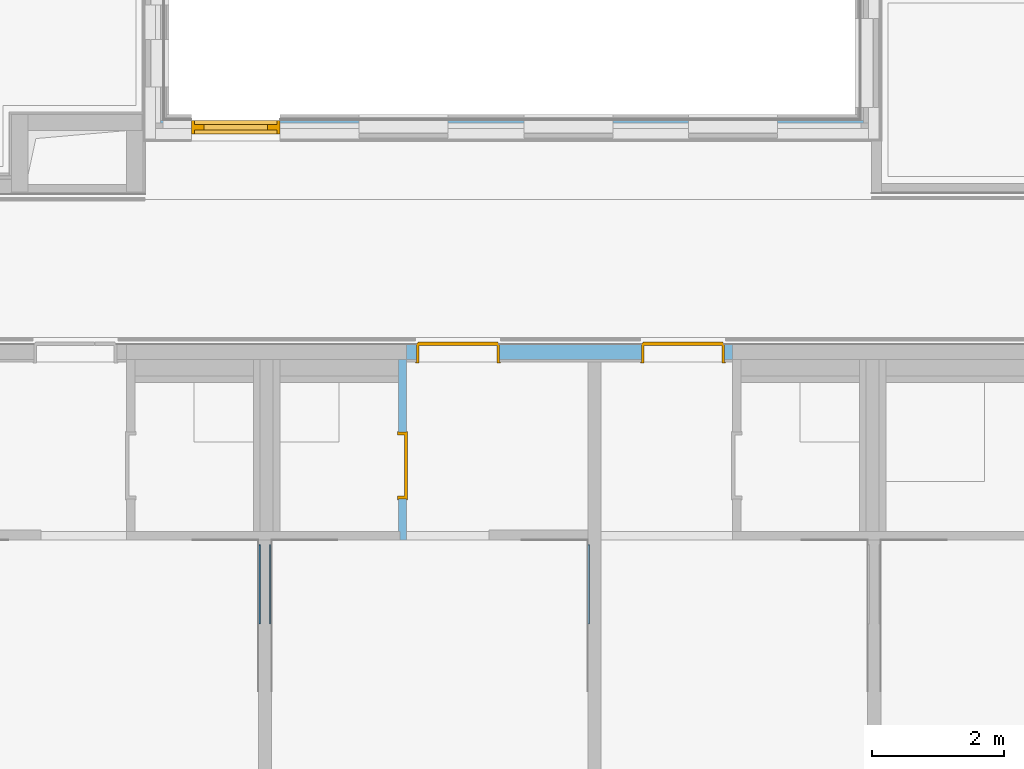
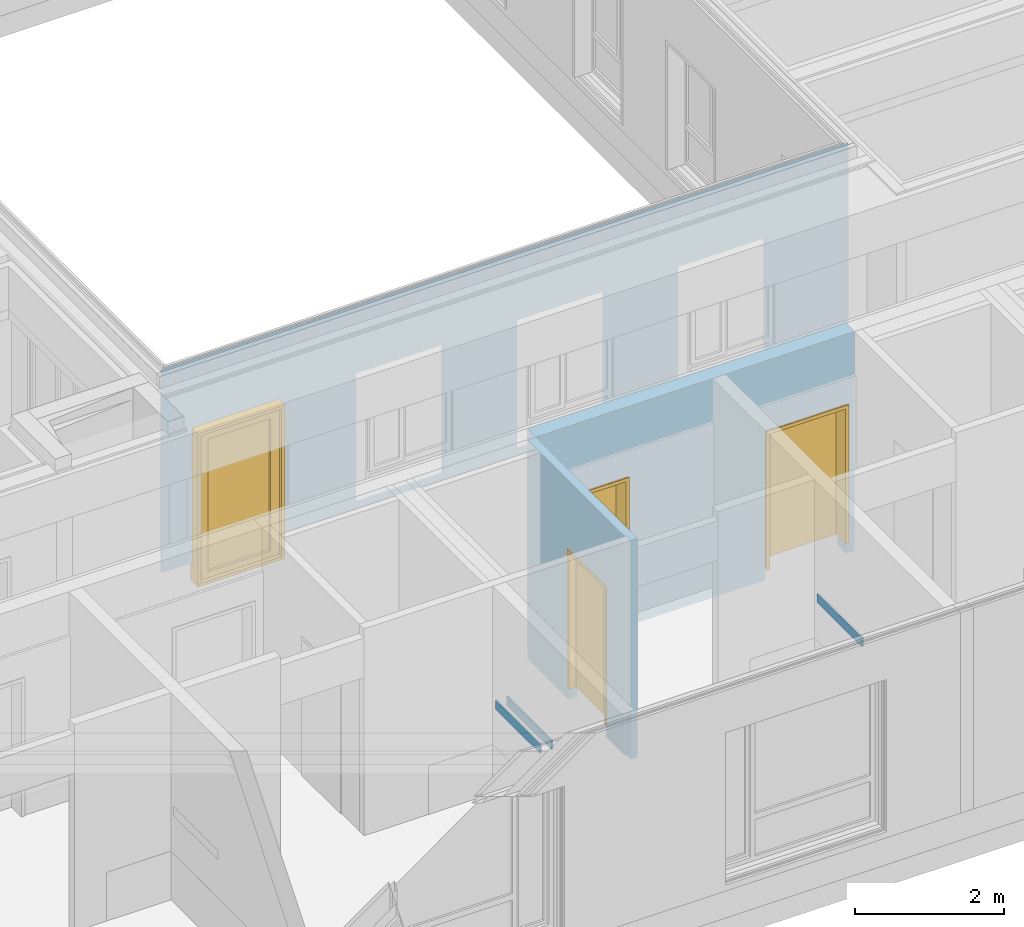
# One storey, part 125 of 207: 4 doors, 3 walls, 7 openings, plus 3 elements that do not belong to this part.
"""IFC4 building model written with IfcOpenShell, lengths in metres."""

from ifc_helpers import new_model, entity, si_unit, converted_unit, derived_unit, frame, frame_2d, origin, origin_with_axes, place, context, subcontext, project, spatial, polyline, rectangle, outline, extrude, closed_shell, open_shell, faceted_brep, surface_model, source, transform, mapped, material, type_object, element, fill, save


model = new_model("IFC4")

# Units and contexts
model_context = context("Model", 3, precision=1e-05, world=origin())
body_context = subcontext(model_context, "Body", "Model", "MODEL_VIEW")
ifc_project = project(units=[si_unit("LENGTHUNIT", "METRE"), si_unit("AREAUNIT", "SQUARE_METRE"), si_unit("VOLUMEUNIT", "CUBIC_METRE"), si_unit("MASSUNIT", "GRAM", prefix="KILO"), converted_unit("PLANEANGLEUNIT", "DEGREE", entity("IfcPlaneAngleMeasure", 0.0174532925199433), si_unit("PLANEANGLEUNIT", "RADIAN"), dimensions=[0, 0, 0, 0, 0, 0, 0]), derived_unit("THERMALTRANSMITTANCEUNIT", [(si_unit("POWERUNIT", "WATT"), 1), (si_unit("THERMODYNAMICTEMPERATUREUNIT", "KELVIN"), -1), (si_unit("LENGTHUNIT", "METRE"), -2)]), derived_unit("VOLUMETRICFLOWRATEUNIT", [(si_unit("LENGTHUNIT", "METRE"), 3), (converted_unit("TIMEUNIT", "hour", entity("IfcTimeMeasure", 3600.0), si_unit("TIMEUNIT", "SECOND"), dimensions=[0, 0, 1, 0, 0, 0, 0]), -1), (si_unit("LENGTHUNIT", "METRE"), -1)])], contexts=[model_context])

# Site, building, storey
site_placement = place(None, origin())
site = spatial("IfcSite", under=ifc_project, at=site_placement, Name="Psychiatrie Neubau Wunstorf", CompositionType="ELEMENT")
building_placement = place(site_placement, origin())
building = spatial("IfcBuilding", under=site, at=building_placement, Name="Neubau H2 Stationsgebäude", CompositionType="ELEMENT")
storey_placement = place(building_placement, frame((0.0, 0.0, -0.2)))
storey = spatial("IfcBuildingStorey", under=building, at=storey_placement, Name="H2 Ebene 0", CompositionType="ELEMENT", Elevation=-0.2)

# Wall, openings, door
ifc_material_1 = material(Name="WA-LB")
wall_1_placement = place(storey_placement, frame((79.415, 8.69000000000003, 0.5), z_axis=(0.0, 0.0, 1.0), x_axis=(1.0, -1.70476982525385e-16, 0.0)))
wall_1 = element("IfcWall", 1, at=wall_1_placement, inside=storey, material=ifc_material_1, context=body_context, shape_type="SweptSolid", body=[
    extrude(rectangle(XDim=10.67, YDim=0.036, at=frame_2d((5.335, 0.018), x_axis=(1.0, 0.0))), origin_with_axes(), (0.0, 0.0, 1.0), 3.3),
])
opening_1_placement = place(wall_1_placement, frame((9.3647, 0.0359999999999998, 0.1), z_axis=(0.0, -1.0, 0.0), x_axis=(0.0, 0.0, 1.0)))
element("IfcOpeningElement", 2, at=opening_1_placement, cuts=wall_1, Name="Fensteröffnung", ObjectType="Opening", context=body_context, shape_type="SweptSolid", body=[
    extrude(outline(polyline([(2.12, 1.35), (2.12, 0.0), (0.0, 0.0), (0.0, 1.35), (2.12, 1.35)])), origin_with_axes(), (0.0, 0.0, 1.0), 0.036),
])
opening_2_placement = place(wall_1_placement, frame((6.8647, 0.0359999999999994, 0.1), z_axis=(0.0, -1.0, 0.0), x_axis=(0.0, 0.0, 1.0)))
element("IfcOpeningElement", 3, at=opening_2_placement, cuts=wall_1, Name="Fensteröffnung", ObjectType="Opening", context=body_context, shape_type="SweptSolid", body=[
    extrude(outline(polyline([(2.12, 1.35), (2.12, 0.0), (0.0, 0.0), (0.0, 1.35), (2.12, 1.35)])), origin_with_axes(), (0.0, 0.0, 1.0), 0.036),
])
opening_3_placement = place(wall_1_placement, frame((4.3647, 0.0360000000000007, 0.1), z_axis=(0.0, -1.0, 0.0), x_axis=(0.0, 0.0, 1.0)))
element("IfcOpeningElement", 4, at=opening_3_placement, cuts=wall_1, Name="Fensteröffnung", ObjectType="Opening", context=body_context, shape_type="SweptSolid", body=[
    extrude(outline(polyline([(2.12, 1.35), (2.12, 0.0), (0.0, 0.0), (0.0, 1.35), (2.12, 1.35)])), origin_with_axes(), (0.0, 0.0, 1.0), 0.036),
])
opening_4_placement = place(wall_1_placement, frame((1.81600000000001, 0.0360000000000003, -0.5), z_axis=(0.0, -1.0, 0.0), x_axis=(0.0, 0.0, 1.0)))
opening_4 = element("IfcOpeningElement", 5, at=opening_4_placement, cuts=wall_1, Name="Türöffnung", ObjectType="Opening", context=body_context, shape_type="SweptSolid", body=[
    extrude(outline(polyline([(2.72, 1.35), (2.72, 0.0), (0.0, 0.0), (0.0, 1.35), (2.72, 1.35)])), origin_with_axes(), (0.0, 0.0, 1.0), 0.036),
])
ifc_material_2 = material(Name="TA-1F-AG-D-O")
door_type_1 = type_object("IfcDoorType", Name="SMT", OperationType="SINGLE_SWING_LEFT", ParameterTakesPrecedence=False, PredefinedType="DOOR")
shared_shape_1 = source(origin_with_axes(), body_context, "Body", "SurfaceModel", [
    surface_model("IfcShellBasedSurfaceModel", [(0.0, 0.0, 2.72), (0.05, 0.0, 2.72), (0.05, 0.0, 0.2), (0.0, 0.0, 0.2), (0.0, 0.2, 0.2), (0.05, 0.2, 0.2), (0.05, 0.2, 2.72), (0.0, 0.2, 2.72)], [closed_shell([[[0, 1, 2, 3]], [[4, 5, 6, 7]], [[3, 4, 7, 0]], [[2, 5, 4, 3]], [[1, 6, 5, 2]], [[0, 7, 6, 1]]], orient=[[False], [False], [False], [False], [False], [False]])]),
    surface_model("IfcShellBasedSurfaceModel", [(1.3, 0.0, 2.72), (1.35, 0.0, 2.72), (1.35, 0.0, 0.2), (1.3, 0.0, 0.2), (1.3, 0.2, 0.2), (1.35, 0.2, 0.2), (1.35, 0.2, 2.72), (1.3, 0.2, 2.72)], [closed_shell([[[0, 1, 2, 3]], [[4, 5, 6, 7]], [[3, 4, 7, 0]], [[2, 5, 4, 3]], [[1, 6, 5, 2]], [[0, 7, 6, 1]]], orient=[[False], [False], [False], [False], [False], [False]])]),
    surface_model("IfcShellBasedSurfaceModel", [(0.05, 0.0, 0.25), (1.3, 0.0, 0.25), (1.3, 0.0, 0.2), (0.05, 0.0, 0.2), (0.05, 0.2, 0.2), (1.3, 0.2, 0.2), (1.3, 0.2, 0.25), (0.05, 0.2, 0.25)], [closed_shell([[[0, 1, 2, 3]], [[4, 5, 6, 7]], [[3, 4, 7, 0]], [[2, 5, 4, 3]], [[1, 6, 5, 2]], [[0, 7, 6, 1]]], orient=[[False], [False], [False], [False], [False], [False]])]),
    surface_model("IfcShellBasedSurfaceModel", [(0.05, 0.0, 2.72), (1.3, 0.0, 2.72), (1.3, 0.0, 2.67), (0.05, 0.0, 2.67), (0.05, 0.2, 2.67), (1.3, 0.2, 2.67), (1.3, 0.2, 2.72), (0.05, 0.2, 2.72)], [closed_shell([[[0, 1, 2, 3]], [[4, 5, 6, 7]], [[3, 4, 7, 0]], [[2, 5, 4, 3]], [[1, 6, 5, 2]], [[0, 7, 6, 1]]], orient=[[False], [False], [False], [False], [False], [False]])]),
    surface_model("IfcShellBasedSurfaceModel", [(0.05, 0.06, 2.67), (0.13, 0.06, 2.67), (0.13, 0.06, 0.25), (0.05, 0.06, 0.25), (0.05, 0.14, 0.25), (0.13, 0.14, 0.25), (0.13, 0.14, 2.67), (0.05, 0.14, 2.67)], [closed_shell([[[0, 1, 2, 3]], [[4, 5, 6, 7]], [[3, 4, 7, 0]], [[2, 5, 4, 3]], [[1, 6, 5, 2]], [[0, 7, 6, 1]]], orient=[[False], [False], [False], [False], [False], [False]])]),
    surface_model("IfcShellBasedSurfaceModel", [(1.22, 0.06, 2.67), (1.3, 0.06, 2.67), (1.3, 0.06, 0.25), (1.22, 0.06, 0.25), (1.22, 0.14, 0.25), (1.3, 0.14, 0.25), (1.3, 0.14, 2.67), (1.22, 0.14, 2.67)], [closed_shell([[[0, 1, 2, 3]], [[4, 5, 6, 7]], [[3, 4, 7, 0]], [[2, 5, 4, 3]], [[1, 6, 5, 2]], [[0, 7, 6, 1]]], orient=[[False], [False], [False], [False], [False], [False]])]),
    surface_model("IfcShellBasedSurfaceModel", [(0.13, 0.06, 2.67), (1.22, 0.06, 2.67), (1.22, 0.06, 2.59), (0.13, 0.06, 2.59), (0.13, 0.14, 2.59), (1.22, 0.14, 2.59), (1.22, 0.14, 2.67), (0.13, 0.14, 2.67)], [closed_shell([[[0, 1, 2, 3]], [[4, 5, 6, 7]], [[3, 4, 7, 0]], [[2, 5, 4, 3]], [[1, 6, 5, 2]], [[0, 7, 6, 1]]], orient=[[False], [False], [False], [False], [False], [False]])]),
    surface_model("IfcShellBasedSurfaceModel", [(0.11, 0.061, 2.61), (0.19, 0.061, 2.61), (0.19, 0.061, 0.23), (0.11, 0.061, 0.23), (0.11, 0.141, 0.23), (0.19, 0.141, 0.23), (0.19, 0.141, 2.61), (0.11, 0.141, 2.61)], [closed_shell([[[0, 1, 2, 3]], [[4, 5, 6, 7]], [[3, 4, 7, 0]], [[2, 5, 4, 3]], [[1, 6, 5, 2]], [[0, 7, 6, 1]]], orient=[[False], [False], [False], [False], [False], [False]])]),
    surface_model("IfcShellBasedSurfaceModel", [(1.16, 0.061, 2.61), (1.24, 0.061, 2.61), (1.24, 0.061, 0.23), (1.16, 0.061, 0.23), (1.16, 0.141, 0.23), (1.24, 0.141, 0.23), (1.24, 0.141, 2.61), (1.16, 0.141, 2.61)], [closed_shell([[[0, 1, 2, 3]], [[4, 5, 6, 7]], [[3, 4, 7, 0]], [[2, 5, 4, 3]], [[1, 6, 5, 2]], [[0, 7, 6, 1]]], orient=[[False], [False], [False], [False], [False], [False]])]),
    surface_model("IfcShellBasedSurfaceModel", [(0.19, 0.061, 0.35), (1.16, 0.061, 0.35), (1.16, 0.061, 0.23), (0.19, 0.061, 0.23), (0.19, 0.141, 0.23), (1.16, 0.141, 0.23), (1.16, 0.141, 0.35), (0.19, 0.141, 0.35)], [closed_shell([[[0, 1, 2, 3]], [[4, 5, 6, 7]], [[3, 4, 7, 0]], [[2, 5, 4, 3]], [[1, 6, 5, 2]], [[0, 7, 6, 1]]], orient=[[False], [False], [False], [False], [False], [False]])]),
    surface_model("IfcShellBasedSurfaceModel", [(0.19, 0.061, 2.61), (1.16, 0.061, 2.61), (1.16, 0.061, 2.53), (0.19, 0.061, 2.53), (0.19, 0.141, 2.53), (1.16, 0.141, 2.53), (1.16, 0.141, 2.61), (0.19, 0.141, 2.61)], [closed_shell([[[0, 1, 2, 3]], [[4, 5, 6, 7]], [[3, 4, 7, 0]], [[2, 5, 4, 3]], [[1, 6, 5, 2]], [[0, 7, 6, 1]]], orient=[[False], [False], [False], [False], [False], [False]])]),
    surface_model("IfcShellBasedSurfaceModel", [(0.19, 0.101, 0.35), (0.19, 0.101, 2.53), (1.16, 0.101, 2.53), (1.16, 0.101, 0.35)], [open_shell([[[0, 1, 2, 3]]], orient=[[False]])]),
])
door_1_placement = place(opening_4_placement, frame((0.0, 1.35, 0.200000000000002), z_axis=(1.0, 0.0, 0.0), x_axis=(0.0, -1.0, -1.70476982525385e-16)))
door_1 = element("IfcDoor", 6, at=door_1_placement, inside=storey, type_object=door_type_1, material=ifc_material_2, Name="SMT", OverallHeight=2.72, OverallWidth=1.35, context=body_context, shape_type="MappedRepresentation", body=[
    mapped(shared_shape_1, transform((0.0, 0.0, 0.0), x_axis=(1.0, 0.0, 0.0), y_axis=(0.0, 1.0, 0.0), z_axis=(0.0, 0.0, 1.0), scale=1.0)),
])
fill(opening_4, door_1)

# Walls
for number, where, name in (
    (7, (81.075, 1.08720000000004, 1.625), "WV 1.1"),
    (8, (85.9000000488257, 1.08720000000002, 1.625), "WV 1.1"),
    (9, (80.9, 1.08720000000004, 1.625), "WV 1.1"),
):
    element("IfcWall", number, at=place(storey_placement, frame(where)), inside=storey, Name=name, context=body_context, shape_type="Brep", body=[
        faceted_brep([(0.025, 1.2, 0.0), (0.0, 1.2, 0.0), (0.0, 0.0, 0.0), (0.025, 0.0, 0.0), (0.0, 1.2, 0.15), (0.025, 1.2, 0.15), (0.025, 0.0, 0.15), (0.0, 0.0, 0.15)], [[[0, 1, 2, 3]], [[4, 5, 6, 7]], [[1, 0, 5, 4]], [[2, 1, 4, 7]], [[3, 2, 7, 6]], [[0, 3, 6, 5]]], orient=[[False], [False], [False], [False], [False], [False]]),
    ])

# Wall, opening, door
ifc_material_3 = material(Name="WI-LB")
wall_2_placement = place(storey_placement, frame((83.025, 5.1005, 0.0), z_axis=(0.0, 0.0, 1.0), x_axis=(0.0, -1.0, 0.0)))
wall_2 = element("IfcWall", 10, at=wall_2_placement, inside=storey, material=ifc_material_3, context=body_context, shape_type="SweptSolid", body=[
    extrude(outline(polyline([(-2.74, 0.0), (-0.125, 0.0), (-0.125, 0.025), (0.0, 0.025), (0.0, 0.125), (-2.74, 0.125), (-2.74, 0.0)])), frame((2.74, 0.0, 0.0), z_axis=(0.0, 0.0, 1.0), x_axis=(1.0, 0.0, 0.0)), (0.0, 0.0, 1.0), 3.6),
])
opening_5_placement = place(wall_2_placement, frame((1.105, 0.0, 0.0), z_axis=(0.0, 1.0, 0.0), x_axis=(0.0, 0.0, 1.0)))
opening_5 = element("IfcOpeningElement", 11, at=opening_5_placement, cuts=wall_2, Name="Türöffnung", ObjectType="Opening", context=body_context, shape_type="SweptSolid", body=[
    extrude(outline(polyline([(2.46, 1.01), (2.46, 0.0), (0.0, 0.0), (0.0, 1.01), (2.46, 1.01)])), origin_with_axes(), (0.0, 0.0, 1.0), 0.125),
])
ifc_material_4 = material(Name="TI-1F-UZ-D-N")
door_type_2 = type_object("IfcDoorType", Name="SMT", OperationType="SINGLE_SWING_RIGHT", ParameterTakesPrecedence=False, PredefinedType="DOOR")
shared_shape_2 = source(origin_with_axes(), body_context, "Body", "Brep", [
    faceted_brep([(1.05, 0.0124999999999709, 0.0), (1.05, 0.112499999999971, 0.0), (1.01, 0.112499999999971, 0.0), (1.01, 0.0124999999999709, 0.0), (1.05, 0.112499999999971, 3.6), (1.05, 0.0124999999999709, 3.6), (1.01, 0.0124999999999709, 3.6), (1.01, 0.112499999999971, 3.6)], [[[0, 1, 2, 3]], [[4, 5, 6, 7]], [[1, 0, 5, 4]], [[2, 1, 4, 7]], [[3, 2, 7, 6]], [[0, 3, 6, 5]]], orient=[[False], [False], [False], [False], [False], [False]]),
    faceted_brep([(0.0, 0.0124999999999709, 0.0), (0.0, 0.112499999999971, 0.0), (-0.0399999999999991, 0.112499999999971, 0.0), (-0.0399999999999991, 0.0124999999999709, 0.0), (0.0, 0.112499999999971, 3.6), (0.0, 0.0124999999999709, 3.6), (-0.0399999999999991, 0.0124999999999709, 3.6), (-0.0399999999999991, 0.112499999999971, 3.6)], [[[0, 1, 2, 3]], [[4, 5, 6, 7]], [[1, 0, 5, 4]], [[2, 1, 4, 7]], [[3, 2, 7, 6]], [[0, 3, 6, 5]]], orient=[[False], [False], [False], [False], [False], [False]]),
    faceted_brep([(1.01, 0.0124999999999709, 2.46), (1.01, 0.112499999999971, 2.46), (0.0, 0.112499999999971, 2.46), (0.0, 0.0124999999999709, 2.46), (1.01, 0.112499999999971, 2.5), (1.01, 0.0124999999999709, 2.5), (0.0, 0.0124999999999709, 2.5), (0.0, 0.112499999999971, 2.5)], [[[0, 1, 2, 3]], [[4, 5, 6, 7]], [[1, 0, 5, 4]], [[2, 1, 4, 7]], [[3, 2, 7, 6]], [[0, 3, 6, 5]]], orient=[[False], [False], [False], [False], [False], [False]]),
])
shared_shape_3 = source(origin_with_axes(), body_context, "Body", "Brep", [
    faceted_brep([(0.0, -0.0150000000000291, 2.46), (0.0400000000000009, -0.0150000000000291, 2.46), (0.0400000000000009, -0.0150000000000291, 0.2), (0.0, -0.0150000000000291, 0.2), (0.0, 0.139999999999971, 0.2), (0.0400000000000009, 0.139999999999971, 0.2), (0.0400000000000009, 0.139999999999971, 2.46), (0.0, 0.139999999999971, 2.46)], [[[0, 1, 2, 3]], [[4, 5, 6, 7]], [[3, 4, 7, 0]], [[2, 5, 4, 3]], [[1, 6, 5, 2]], [[0, 7, 6, 1]]], orient=[[False], [False], [False], [False], [False], [False]]),
    faceted_brep([(0.0, -0.0150000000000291, 2.475), (0.0, -0.0150000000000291, 0.2), (-0.0149999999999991, -0.0150000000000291, 0.2), (-0.0149999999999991, -0.0150000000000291, 2.475), (0.0, 0.0, 0.2), (0.0, 0.0, 2.475), (-0.0149999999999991, 0.0, 2.475), (-0.0149999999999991, 0.0, 0.2)], [[[0, 1, 2, 3]], [[4, 5, 6, 7]], [[1, 0, 5, 4]], [[2, 1, 4, 7]], [[3, 2, 7, 6]], [[0, 3, 6, 5]]], orient=[[False], [False], [False], [False], [False], [False]]),
    faceted_brep([(0.0, 0.124999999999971, 2.475), (0.0, 0.124999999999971, 0.2), (-0.0149999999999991, 0.124999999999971, 0.2), (-0.0149999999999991, 0.124999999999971, 2.475), (0.0, 0.139999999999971, 0.2), (0.0, 0.139999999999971, 2.475), (-0.0149999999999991, 0.139999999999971, 2.475), (-0.0149999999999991, 0.139999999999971, 0.2)], [[[0, 1, 2, 3]], [[4, 5, 6, 7]], [[1, 0, 5, 4]], [[2, 1, 4, 7]], [[3, 2, 7, 6]], [[0, 3, 6, 5]]], orient=[[False], [False], [False], [False], [False], [False]]),
    faceted_brep([(0.970000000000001, -0.0150000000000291, 2.46), (1.01, -0.0150000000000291, 2.46), (1.01, -0.0150000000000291, 0.2), (0.970000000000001, -0.0150000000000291, 0.2), (0.970000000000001, 0.139999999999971, 0.2), (1.01, 0.139999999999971, 0.2), (1.01, 0.139999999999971, 2.46), (0.970000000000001, 0.139999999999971, 2.46)], [[[0, 1, 2, 3]], [[4, 5, 6, 7]], [[3, 4, 7, 0]], [[2, 5, 4, 3]], [[1, 6, 5, 2]], [[0, 7, 6, 1]]], orient=[[False], [False], [False], [False], [False], [False]]),
    faceted_brep([(1.01, -0.0150000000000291, 2.475), (1.025, -0.0150000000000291, 2.475), (1.025, -0.0150000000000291, 0.2), (1.01, -0.0150000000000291, 0.2), (1.01, 0.0, 0.2), (1.025, 0.0, 0.2), (1.025, 0.0, 2.475), (1.01, 0.0, 2.475)], [[[0, 1, 2, 3]], [[4, 5, 6, 7]], [[3, 4, 7, 0]], [[2, 5, 4, 3]], [[1, 6, 5, 2]], [[0, 7, 6, 1]]], orient=[[False], [False], [False], [False], [False], [False]]),
    faceted_brep([(1.01, 0.124999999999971, 2.475), (1.025, 0.124999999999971, 2.475), (1.025, 0.124999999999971, 0.2), (1.01, 0.124999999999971, 0.2), (1.01, 0.139999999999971, 0.2), (1.025, 0.139999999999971, 0.2), (1.025, 0.139999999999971, 2.475), (1.01, 0.139999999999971, 2.475)], [[[0, 1, 2, 3]], [[4, 5, 6, 7]], [[3, 4, 7, 0]], [[2, 5, 4, 3]], [[1, 6, 5, 2]], [[0, 7, 6, 1]]], orient=[[False], [False], [False], [False], [False], [False]]),
    faceted_brep([(0.0400000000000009, -0.0150000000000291, 2.46), (0.970000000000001, -0.0150000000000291, 2.46), (0.970000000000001, -0.0150000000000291, 2.42), (0.0400000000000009, -0.0150000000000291, 2.42), (0.0400000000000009, 0.139999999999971, 2.42), (0.970000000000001, 0.139999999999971, 2.42), (0.970000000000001, 0.139999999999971, 2.46), (0.0400000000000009, 0.139999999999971, 2.46)], [[[0, 1, 2, 3]], [[4, 5, 6, 7]], [[3, 4, 7, 0]], [[2, 5, 4, 3]], [[1, 6, 5, 2]], [[0, 7, 6, 1]]], orient=[[False], [False], [False], [False], [False], [False]]),
    faceted_brep([(0.0, -0.0150000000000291, 2.475), (1.01, -0.0150000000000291, 2.475), (1.01, -0.0150000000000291, 2.46), (0.0, -0.0150000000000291, 2.46), (0.0, 0.0, 2.46), (1.01, 0.0, 2.46), (1.01, 0.0, 2.475), (0.0, 0.0, 2.475)], [[[0, 1, 2, 3]], [[4, 5, 6, 7]], [[3, 4, 7, 0]], [[2, 5, 4, 3]], [[1, 6, 5, 2]], [[0, 7, 6, 1]]], orient=[[False], [False], [False], [False], [False], [False]]),
    faceted_brep([(0.0, 0.124999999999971, 2.475), (1.01, 0.124999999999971, 2.475), (1.01, 0.124999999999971, 2.46), (0.0, 0.124999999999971, 2.46), (0.0, 0.139999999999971, 2.46), (1.01, 0.139999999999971, 2.46), (1.01, 0.139999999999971, 2.475), (0.0, 0.139999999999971, 2.475)], [[[0, 1, 2, 3]], [[4, 5, 6, 7]], [[3, 4, 7, 0]], [[2, 5, 4, 3]], [[1, 6, 5, 2]], [[0, 7, 6, 1]]], orient=[[False], [False], [False], [False], [False], [False]]),
    faceted_brep([(0.0250000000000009, 0.0909999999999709, 2.435), (0.985000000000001, 0.0909999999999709, 2.435), (0.985000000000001, 0.0909999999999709, 0.2), (0.0250000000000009, 0.0909999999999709, 0.2), (0.0250000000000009, 0.140999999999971, 0.2), (0.985000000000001, 0.140999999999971, 0.2), (0.985000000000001, 0.140999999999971, 2.435), (0.0250000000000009, 0.140999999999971, 2.435)], [[[0, 1, 2, 3]], [[4, 5, 6, 7]], [[3, 4, 7, 0]], [[2, 5, 4, 3]], [[1, 6, 5, 2]], [[0, 7, 6, 1]]], orient=[[False], [False], [False], [False], [False], [False]]),
])
door_2_placement = place(opening_5_placement, frame((0.0, 0.0, 0.0), z_axis=(1.0, 0.0, 0.0), x_axis=(0.0, 1.0, 0.0)))
door_2 = element("IfcDoor", 12, at=door_2_placement, inside=storey, type_object=door_type_2, material=ifc_material_4, Name="SMT", OverallHeight=2.46, OverallWidth=1.01, context=body_context, shape_type="MappedRepresentation", body=[
    mapped(shared_shape_2, transform((0.0, 0.0, 0.0), x_axis=(1.0, 0.0, 0.0), y_axis=(0.0, 1.0, 0.0), z_axis=(0.0, 0.0, 1.0), scale=1.0)),
    mapped(shared_shape_3, transform((0.0, 0.0, 0.0), x_axis=(1.0, 0.0, 0.0), y_axis=(0.0, 1.0, 0.0), z_axis=(0.0, 0.0, 1.0), scale=1.0)),
])
fill(opening_5, door_2)

# Wall, openings, doors
ifc_material_5 = material(Name="WI-HW 60")
wall_3_placement = place(storey_placement, frame((88.1000000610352, 5.3325, 0.0), z_axis=(0.0, 0.0, 1.0), x_axis=(-1.0, 0.0, 0.0)))
wall_3 = element("IfcWall", 13, at=wall_3_placement, inside=storey, material=ifc_material_5, context=body_context, shape_type="SweptSolid", body=[
    extrude(rectangle(XDim=4.95000006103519, YDim=0.232, at=frame_2d((2.47500003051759, 0.116), x_axis=(1.0, 0.0))), origin_with_axes(), (0.0, 0.0, 1.0), 3.6),
])
opening_6_placement = place(wall_3_placement, frame((3.54000006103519, 0.0, 0.0), z_axis=(0.0, 1.0, 0.0), x_axis=(0.0, 0.0, 1.0)))
opening_6 = element("IfcOpeningElement", 14, at=opening_6_placement, cuts=wall_3, Name="Türöffnung", ObjectType="Opening", context=body_context, shape_type="SweptSolid", body=[
    extrude(outline(polyline([(2.46, 1.26), (2.46, 0.0), (0.0, 0.0), (0.0, 1.26), (2.46, 1.26)])), origin_with_axes(), (0.0, 0.0, 1.0), 0.232),
])
opening_7_placement = place(wall_3_placement, frame((0.125000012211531, 0.0, 0.0), z_axis=(0.0, 1.0, 0.0), x_axis=(0.0, 0.0, 1.0)))
opening_7 = element("IfcOpeningElement", 15, at=opening_7_placement, cuts=wall_3, Name="Türöffnung", ObjectType="Opening", context=body_context, shape_type="SweptSolid", body=[
    extrude(outline(polyline([(2.46, 1.26), (2.46, 0.0), (0.0, 0.0), (0.0, 1.26), (2.46, 1.26)])), origin_with_axes(), (0.0, 0.0, 1.0), 0.232),
])
ifc_material_6 = material(Name="TI-2F-UZ-D")
door_type_3 = type_object("IfcDoorType", Name="SMT", OperationType="DOUBLE_DOOR_SINGLE_SWING", ParameterTakesPrecedence=False, PredefinedType="DOOR")
shared_shape_4 = source(origin_with_axes(), body_context, "Body", "Brep", [
    faceted_brep([(1.26, -0.015, 2.46), (1.26, -0.015, 0.2), (1.22, -0.015, 0.2), (1.22, -0.015, 2.46), (1.26, 0.287, 0.2), (1.26, 0.287, 2.46), (1.22, 0.287, 2.46), (1.22, 0.287, 0.2)], [[[0, 1, 2, 3]], [[4, 5, 6, 7]], [[1, 0, 5, 4]], [[2, 1, 4, 7]], [[3, 2, 7, 6]], [[0, 3, 6, 5]]], orient=[[False], [False], [False], [False], [False], [False]]),
    faceted_brep([(1.26, -0.015, 2.475), (1.275, -0.015, 2.475), (1.275, -0.015, 0.2), (1.26, -0.015, 0.2), (1.26, 0.0, 0.2), (1.275, 0.0, 0.2), (1.275, 0.0, 2.475), (1.26, 0.0, 2.475)], [[[0, 1, 2, 3]], [[4, 5, 6, 7]], [[3, 4, 7, 0]], [[2, 5, 4, 3]], [[1, 6, 5, 2]], [[0, 7, 6, 1]]], orient=[[False], [False], [False], [False], [False], [False]]),
    faceted_brep([(1.26, 0.272, 2.475), (1.275, 0.272, 2.475), (1.275, 0.272, 0.2), (1.26, 0.272, 0.2), (1.26, 0.287, 0.2), (1.275, 0.287, 0.2), (1.275, 0.287, 2.475), (1.26, 0.287, 2.475)], [[[0, 1, 2, 3]], [[4, 5, 6, 7]], [[3, 4, 7, 0]], [[2, 5, 4, 3]], [[1, 6, 5, 2]], [[0, 7, 6, 1]]], orient=[[False], [False], [False], [False], [False], [False]]),
    faceted_brep([(0.04, -0.015, 2.46), (0.04, -0.015, 0.2), (0.0, -0.015, 0.2), (0.0, -0.015, 2.46), (0.04, 0.287, 0.2), (0.04, 0.287, 2.46), (0.0, 0.287, 2.46), (0.0, 0.287, 0.2)], [[[0, 1, 2, 3]], [[4, 5, 6, 7]], [[1, 0, 5, 4]], [[2, 1, 4, 7]], [[3, 2, 7, 6]], [[0, 3, 6, 5]]], orient=[[False], [False], [False], [False], [False], [False]]),
    faceted_brep([(0.0, -0.015, 2.475), (0.0, -0.015, 0.2), (-0.015, -0.015, 0.2), (-0.015, -0.015, 2.475), (0.0, 0.0, 0.2), (0.0, 0.0, 2.475), (-0.015, 0.0, 2.475), (-0.015, 0.0, 0.2)], [[[0, 1, 2, 3]], [[4, 5, 6, 7]], [[1, 0, 5, 4]], [[2, 1, 4, 7]], [[3, 2, 7, 6]], [[0, 3, 6, 5]]], orient=[[False], [False], [False], [False], [False], [False]]),
    faceted_brep([(0.0, 0.272, 2.475), (0.0, 0.272, 0.2), (-0.015, 0.272, 0.2), (-0.015, 0.272, 2.475), (0.0, 0.287, 0.2), (0.0, 0.287, 2.475), (-0.015, 0.287, 2.475), (-0.015, 0.287, 0.2)], [[[0, 1, 2, 3]], [[4, 5, 6, 7]], [[1, 0, 5, 4]], [[2, 1, 4, 7]], [[3, 2, 7, 6]], [[0, 3, 6, 5]]], orient=[[False], [False], [False], [False], [False], [False]]),
    faceted_brep([(1.22, -0.015, 2.46), (1.22, -0.015, 2.42), (0.04, -0.015, 2.42), (0.04, -0.015, 2.46), (1.22, 0.287, 2.42), (1.22, 0.287, 2.46), (0.04, 0.287, 2.46), (0.04, 0.287, 2.42)], [[[0, 1, 2, 3]], [[4, 5, 6, 7]], [[1, 0, 5, 4]], [[2, 1, 4, 7]], [[3, 2, 7, 6]], [[0, 3, 6, 5]]], orient=[[False], [False], [False], [False], [False], [False]]),
    faceted_brep([(1.26, -0.015, 2.475), (1.26, -0.015, 2.46), (0.0, -0.015, 2.46), (0.0, -0.015, 2.475), (1.26, 0.0, 2.46), (1.26, 0.0, 2.475), (0.0, 0.0, 2.475), (0.0, 0.0, 2.46)], [[[0, 1, 2, 3]], [[4, 5, 6, 7]], [[1, 0, 5, 4]], [[2, 1, 4, 7]], [[3, 2, 7, 6]], [[0, 3, 6, 5]]], orient=[[False], [False], [False], [False], [False], [False]]),
    faceted_brep([(1.26, 0.272, 2.475), (1.26, 0.272, 2.46), (0.0, 0.272, 2.46), (0.0, 0.272, 2.475), (1.26, 0.287, 2.46), (1.26, 0.287, 2.475), (0.0, 0.287, 2.475), (0.0, 0.287, 2.46)], [[[0, 1, 2, 3]], [[4, 5, 6, 7]], [[1, 0, 5, 4]], [[2, 1, 4, 7]], [[3, 2, 7, 6]], [[0, 3, 6, 5]]], orient=[[False], [False], [False], [False], [False], [False]]),
    faceted_brep([(1.235, 0.252, 2.435), (1.235, 0.252, 0.2), (0.335, 0.252, 0.2), (0.335, 0.252, 2.435), (1.235, 0.302, 0.2), (1.235, 0.302, 2.435), (0.335, 0.302, 2.435), (0.335, 0.302, 0.2)], [[[0, 1, 2, 3]], [[4, 5, 6, 7]], [[1, 0, 5, 4]], [[2, 1, 4, 7]], [[3, 2, 7, 6]], [[0, 3, 6, 5]]], orient=[[False], [False], [False], [False], [False], [False]]),
    faceted_brep([(0.334, 0.252, 2.435), (0.334, 0.252, 0.2), (0.025, 0.252, 0.2), (0.025, 0.252, 2.435), (0.334, 0.302, 0.2), (0.334, 0.302, 2.435), (0.025, 0.302, 2.435), (0.025, 0.302, 0.2)], [[[0, 1, 2, 3]], [[4, 5, 6, 7]], [[1, 0, 5, 4]], [[2, 1, 4, 7]], [[3, 2, 7, 6]], [[0, 3, 6, 5]]], orient=[[False], [False], [False], [False], [False], [False]]),
])
door_3_placement = place(opening_6_placement, frame((0.0, 1.26, 0.272), z_axis=(1.0, 0.0, 0.0), x_axis=(0.0, -1.0, 0.0)))
door_3 = element("IfcDoor", 16, at=door_3_placement, inside=storey, type_object=door_type_3, material=ifc_material_6, Name="SMT", OverallHeight=2.46, OverallWidth=1.26, context=body_context, shape_type="MappedRepresentation", body=[
    mapped(shared_shape_4, transform((0.0, 0.0, 0.0), x_axis=(1.0, 0.0, 0.0), y_axis=(0.0, 1.0, 0.0), z_axis=(0.0, 0.0, 1.0), scale=1.0)),
])
fill(opening_6, door_3)
ifc_material_7 = material(Name="TI-2F-UZ-D")
door_type_4 = type_object("IfcDoorType", Name="SMT", OperationType="DOUBLE_DOOR_SINGLE_SWING", ParameterTakesPrecedence=False, PredefinedType="DOOR")
shared_shape_5 = source(origin_with_axes(), body_context, "Body", "Brep", [
    faceted_brep([(0.0, -0.015, 2.46), (0.04, -0.015, 2.46), (0.04, -0.015, 0.2), (0.0, -0.015, 0.2), (0.0, 0.287, 0.2), (0.04, 0.287, 0.2), (0.04, 0.287, 2.46), (0.0, 0.287, 2.46)], [[[0, 1, 2, 3]], [[4, 5, 6, 7]], [[3, 4, 7, 0]], [[2, 5, 4, 3]], [[1, 6, 5, 2]], [[0, 7, 6, 1]]], orient=[[False], [False], [False], [False], [False], [False]]),
    faceted_brep([(0.0, -0.015, 2.475), (0.0, -0.015, 0.2), (-0.015, -0.015, 0.2), (-0.015, -0.015, 2.475), (0.0, 0.0, 0.2), (0.0, 0.0, 2.475), (-0.015, 0.0, 2.475), (-0.015, 0.0, 0.2)], [[[0, 1, 2, 3]], [[4, 5, 6, 7]], [[1, 0, 5, 4]], [[2, 1, 4, 7]], [[3, 2, 7, 6]], [[0, 3, 6, 5]]], orient=[[False], [False], [False], [False], [False], [False]]),
    faceted_brep([(0.0, 0.272, 2.475), (0.0, 0.272, 0.2), (-0.015, 0.272, 0.2), (-0.015, 0.272, 2.475), (0.0, 0.287, 0.2), (0.0, 0.287, 2.475), (-0.015, 0.287, 2.475), (-0.015, 0.287, 0.2)], [[[0, 1, 2, 3]], [[4, 5, 6, 7]], [[1, 0, 5, 4]], [[2, 1, 4, 7]], [[3, 2, 7, 6]], [[0, 3, 6, 5]]], orient=[[False], [False], [False], [False], [False], [False]]),
    faceted_brep([(1.22, -0.015, 2.46), (1.26, -0.015, 2.46), (1.26, -0.015, 0.2), (1.22, -0.015, 0.2), (1.22, 0.287, 0.2), (1.26, 0.287, 0.2), (1.26, 0.287, 2.46), (1.22, 0.287, 2.46)], [[[0, 1, 2, 3]], [[4, 5, 6, 7]], [[3, 4, 7, 0]], [[2, 5, 4, 3]], [[1, 6, 5, 2]], [[0, 7, 6, 1]]], orient=[[False], [False], [False], [False], [False], [False]]),
    faceted_brep([(1.26, -0.015, 2.475), (1.275, -0.015, 2.475), (1.275, -0.015, 0.2), (1.26, -0.015, 0.2), (1.26, 0.0, 0.2), (1.275, 0.0, 0.2), (1.275, 0.0, 2.475), (1.26, 0.0, 2.475)], [[[0, 1, 2, 3]], [[4, 5, 6, 7]], [[3, 4, 7, 0]], [[2, 5, 4, 3]], [[1, 6, 5, 2]], [[0, 7, 6, 1]]], orient=[[False], [False], [False], [False], [False], [False]]),
    faceted_brep([(1.26, 0.272, 2.475), (1.275, 0.272, 2.475), (1.275, 0.272, 0.2), (1.26, 0.272, 0.2), (1.26, 0.287, 0.2), (1.275, 0.287, 0.2), (1.275, 0.287, 2.475), (1.26, 0.287, 2.475)], [[[0, 1, 2, 3]], [[4, 5, 6, 7]], [[3, 4, 7, 0]], [[2, 5, 4, 3]], [[1, 6, 5, 2]], [[0, 7, 6, 1]]], orient=[[False], [False], [False], [False], [False], [False]]),
    faceted_brep([(0.04, -0.015, 2.46), (1.22, -0.015, 2.46), (1.22, -0.015, 2.42), (0.04, -0.015, 2.42), (0.04, 0.287, 2.42), (1.22, 0.287, 2.42), (1.22, 0.287, 2.46), (0.04, 0.287, 2.46)], [[[0, 1, 2, 3]], [[4, 5, 6, 7]], [[3, 4, 7, 0]], [[2, 5, 4, 3]], [[1, 6, 5, 2]], [[0, 7, 6, 1]]], orient=[[False], [False], [False], [False], [False], [False]]),
    faceted_brep([(0.0, -0.015, 2.475), (1.26, -0.015, 2.475), (1.26, -0.015, 2.46), (0.0, -0.015, 2.46), (0.0, 0.0, 2.46), (1.26, 0.0, 2.46), (1.26, 0.0, 2.475), (0.0, 0.0, 2.475)], [[[0, 1, 2, 3]], [[4, 5, 6, 7]], [[3, 4, 7, 0]], [[2, 5, 4, 3]], [[1, 6, 5, 2]], [[0, 7, 6, 1]]], orient=[[False], [False], [False], [False], [False], [False]]),
    faceted_brep([(0.0, 0.272, 2.475), (1.26, 0.272, 2.475), (1.26, 0.272, 2.46), (0.0, 0.272, 2.46), (0.0, 0.287, 2.46), (1.26, 0.287, 2.46), (1.26, 0.287, 2.475), (0.0, 0.287, 2.475)], [[[0, 1, 2, 3]], [[4, 5, 6, 7]], [[3, 4, 7, 0]], [[2, 5, 4, 3]], [[1, 6, 5, 2]], [[0, 7, 6, 1]]], orient=[[False], [False], [False], [False], [False], [False]]),
    faceted_brep([(0.025, 0.252, 2.435), (0.925, 0.252, 2.435), (0.925, 0.252, 0.2), (0.025, 0.252, 0.2), (0.025, 0.302, 0.2), (0.925, 0.302, 0.2), (0.925, 0.302, 2.435), (0.025, 0.302, 2.435)], [[[0, 1, 2, 3]], [[4, 5, 6, 7]], [[3, 4, 7, 0]], [[2, 5, 4, 3]], [[1, 6, 5, 2]], [[0, 7, 6, 1]]], orient=[[False], [False], [False], [False], [False], [False]]),
    faceted_brep([(0.926, 0.252, 2.435), (1.235, 0.252, 2.435), (1.235, 0.252, 0.2), (0.926, 0.252, 0.2), (0.926, 0.302, 0.2), (1.235, 0.302, 0.2), (1.235, 0.302, 2.435), (0.926, 0.302, 2.435)], [[[0, 1, 2, 3]], [[4, 5, 6, 7]], [[3, 4, 7, 0]], [[2, 5, 4, 3]], [[1, 6, 5, 2]], [[0, 7, 6, 1]]], orient=[[False], [False], [False], [False], [False], [False]]),
])
door_4_placement = place(opening_7_placement, frame((0.0, 1.26, 0.272), z_axis=(1.0, 0.0, 0.0), x_axis=(0.0, -1.0, 0.0)))
door_4 = element("IfcDoor", 17, at=door_4_placement, inside=storey, type_object=door_type_4, material=ifc_material_7, Name="SMT", OverallHeight=2.46, OverallWidth=1.26, context=body_context, shape_type="MappedRepresentation", body=[
    mapped(shared_shape_5, transform((0.0, 0.0, 0.0), x_axis=(1.0, 0.0, 0.0), y_axis=(0.0, 1.0, 0.0), z_axis=(0.0, 0.0, 1.0), scale=1.0)),
])
fill(opening_7, door_4)

save(model, "model.ifc")
